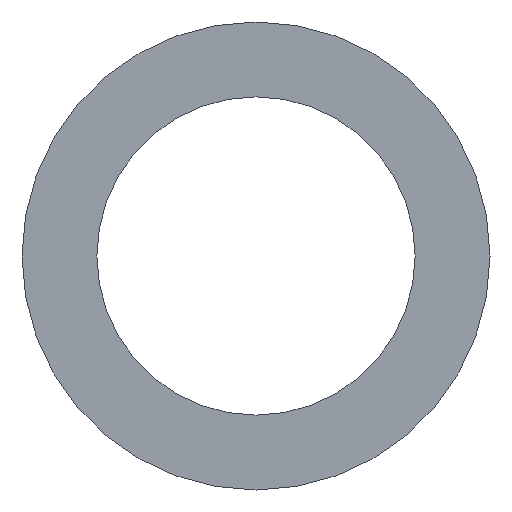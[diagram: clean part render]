
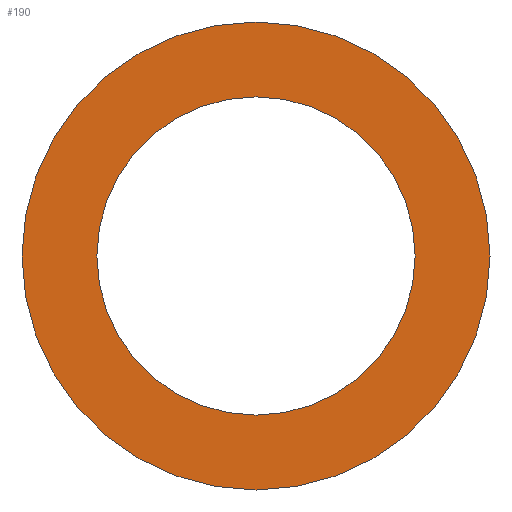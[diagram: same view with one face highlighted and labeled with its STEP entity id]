
A CAD part, front view. The second image highlights one B-rep face of the part: STEP entity #190.
In plain terms, the highlighted planar face has unit normal (0, -1, 0).
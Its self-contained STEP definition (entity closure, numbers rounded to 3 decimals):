
#24 = VERTEX_POINT('',#25);
#25 = CARTESIAN_POINT('',(0.,-72.,92.5));
#32 = CYLINDRICAL_SURFACE('',#33,7.5);
#33 = AXIS2_PLACEMENT_3D('',#34,#35,#36);
#34 = CARTESIAN_POINT('',(0.,-71.,100.));
#35 = DIRECTION('',(0.,1.,0.));
#36 = DIRECTION('',(0.,0.,-1.));
#51 = EDGE_CURVE('',#24,#24,#52,.T.);
#52 = SURFACE_CURVE('',#53,(#58,#65),.PCURVE_S1.);
#53 = CIRCLE('',#54,7.5);
#54 = AXIS2_PLACEMENT_3D('',#55,#56,#57);
#55 = CARTESIAN_POINT('',(0.,-72.,100.));
#56 = DIRECTION('',(0.,-1.,0.));
#57 = DIRECTION('',(0.,0.,-1.));
#58 = PCURVE('',#32,#59);
#59 = DEFINITIONAL_REPRESENTATION('',(#60),#64);
#60 = LINE('',#61,#62);
#61 = CARTESIAN_POINT('',(-0.,-1.));
#62 = VECTOR('',#63,1.);
#63 = DIRECTION('',(-1.,0.));
#64 = ( GEOMETRIC_REPRESENTATION_CONTEXT(2) 
PARAMETRIC_REPRESENTATION_CONTEXT() REPRESENTATION_CONTEXT('2D SPACE',''
  ) );
#65 = PCURVE('',#66,#71);
#66 = PLANE('',#67);
#67 = AXIS2_PLACEMENT_3D('',#68,#69,#70);
#68 = CARTESIAN_POINT('',(0.,-72.,100.));
#69 = DIRECTION('',(0.,-1.,0.));
#70 = DIRECTION('',(0.,0.,-1.));
#71 = DEFINITIONAL_REPRESENTATION('',(#72),#76);
#72 = CIRCLE('',#73,7.5);
#73 = AXIS2_PLACEMENT_2D('',#74,#75);
#74 = CARTESIAN_POINT('',(0.,0.));
#75 = DIRECTION('',(1.,0.));
#76 = ( GEOMETRIC_REPRESENTATION_CONTEXT(2) 
PARAMETRIC_REPRESENTATION_CONTEXT() REPRESENTATION_CONTEXT('2D SPACE',''
  ) );
#112 = VERTEX_POINT('',#113);
#113 = CARTESIAN_POINT('',(0.,-72.,94.9));
#120 = CYLINDRICAL_SURFACE('',#121,5.1);
#121 = AXIS2_PLACEMENT_3D('',#122,#123,#124);
#122 = CARTESIAN_POINT('',(0.,-71.,100.));
#123 = DIRECTION('',(0.,1.,0.));
#124 = DIRECTION('',(0.,0.,-1.));
#139 = EDGE_CURVE('',#112,#112,#140,.T.);
#140 = SURFACE_CURVE('',#141,(#146,#153),.PCURVE_S1.);
#141 = CIRCLE('',#142,5.1);
#142 = AXIS2_PLACEMENT_3D('',#143,#144,#145);
#143 = CARTESIAN_POINT('',(0.,-72.,100.));
#144 = DIRECTION('',(0.,-1.,0.));
#145 = DIRECTION('',(0.,0.,-1.));
#146 = PCURVE('',#120,#147);
#147 = DEFINITIONAL_REPRESENTATION('',(#148),#152);
#148 = LINE('',#149,#150);
#149 = CARTESIAN_POINT('',(-0.,-1.));
#150 = VECTOR('',#151,1.);
#151 = DIRECTION('',(-1.,0.));
#152 = ( GEOMETRIC_REPRESENTATION_CONTEXT(2) 
PARAMETRIC_REPRESENTATION_CONTEXT() REPRESENTATION_CONTEXT('2D SPACE',''
  ) );
#153 = PCURVE('',#66,#154);
#154 = DEFINITIONAL_REPRESENTATION('',(#155),#159);
#155 = CIRCLE('',#156,5.1);
#156 = AXIS2_PLACEMENT_2D('',#157,#158);
#157 = CARTESIAN_POINT('',(0.,0.));
#158 = DIRECTION('',(1.,0.));
#159 = ( GEOMETRIC_REPRESENTATION_CONTEXT(2) 
PARAMETRIC_REPRESENTATION_CONTEXT() REPRESENTATION_CONTEXT('2D SPACE',''
  ) );
#190 = ADVANCED_FACE('',(#191,#194),#66,.T.);
#191 = FACE_BOUND('',#192,.T.);
#192 = EDGE_LOOP('',(#193));
#193 = ORIENTED_EDGE('',*,*,#51,.T.);
#194 = FACE_BOUND('',#195,.T.);
#195 = EDGE_LOOP('',(#196));
#196 = ORIENTED_EDGE('',*,*,#139,.F.);
